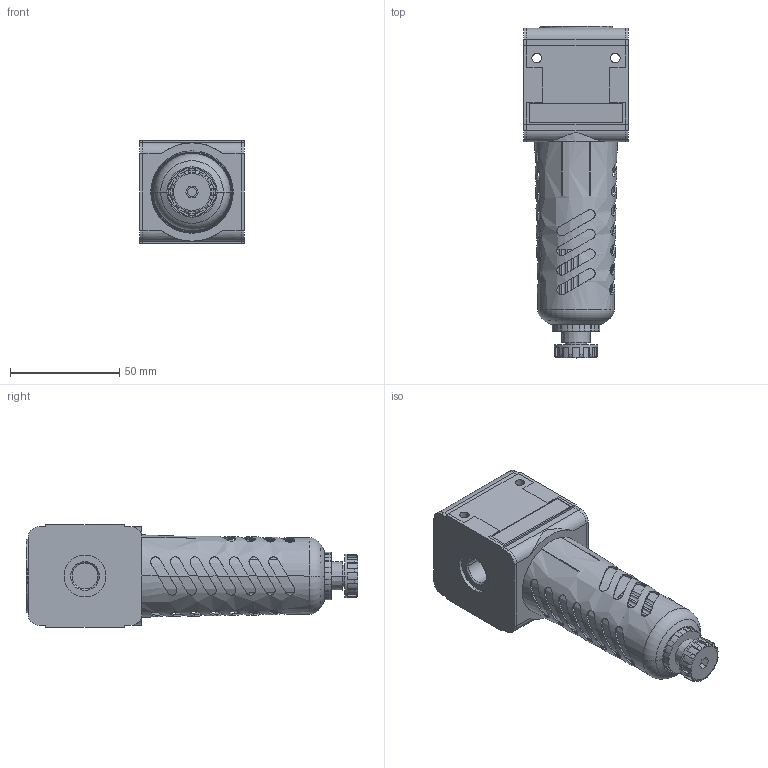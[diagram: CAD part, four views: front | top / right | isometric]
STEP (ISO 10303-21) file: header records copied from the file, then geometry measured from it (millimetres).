
FILE_DESCRIPTION((''),'2;1');
FILE_NAME('R412010787_ASM','2019-02-21T',('PDH2HC'),(''),'CREO PARAMETRIC BY PTC INC, 2016260','CREO PARAMETRIC BY PTC INC, 2016260','');
FILE_SCHEMA(('CONFIG_CONTROL_DESIGN'));
Length unit declared in the file: millimetre
Products named in the file (5): R412010787-A; R412010787-B; R412010787-C; R412010787-D; R412010787_ASM
Assembly tree (5 placements, depth 2):
  R412010787_ASM
    R412010787-A
    R412010787-B
    R412010787-C
    R412010787-D  x2
Bounding box: 48 x 152 x 47 mm (x, y, z)
Volume: 191420.3 mm3; surface area: 53820.3 mm2
Topology: 5 solids, 5 shells, 430 faces, 1285 edges, 851 vertices
Faces by surface type: plane 266, cylinder 138, cone 18, torus 8
Entity records: 18823 total; most frequent: CARTESIAN_POINT 8073, ORIENTED_EDGE 2414, DIRECTION 2008, EDGE_CURVE 1207, VERTEX_POINT 799, AXIS2_PLACEMENT_3D 719, VECTOR 570, LINE 570
